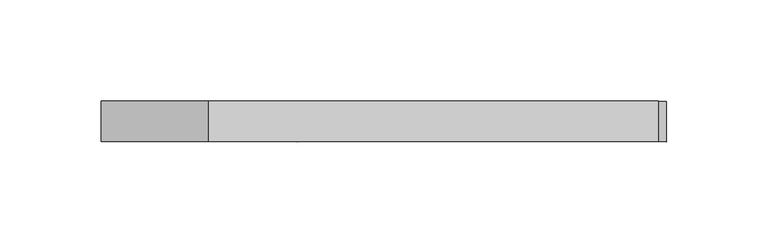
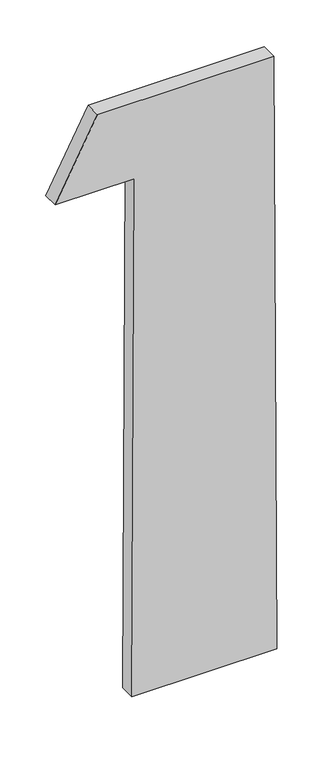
"""IFC4 building model written with IfcOpenShell, lengths in millimetres: plate geometry, 空系统嵌板 : 空."""

from ifc_helpers import new_model, si_unit, frame, origin, place, context, project, spatial, polyline, outline, extrude, source, transform, mapped, element, save


def plate_0ebb438e(model_context):
    return source(origin(), model_context, "Body", "SweptSolid", [
        extrude(outline(polyline([(0.0, -42.9027025), (0.0, 139.561695), (790.0306118, 135.521168), (789.8718781, -86.5279443), (688.5273707, -139.561695), (688.0419657, -39.5628731), (0.0, -42.9027025)])), frame((0.0, -10.0, 0.0), z_axis=(0.0, 1.0, 0.0), x_axis=(0.0, 0.0, 1.0)), (0.0, 0.0, 1.0), 20.0),
    ])


if __name__ == "__main__":
    model = new_model("IFC4")
    model_context = context("Model", 3, world=origin())
    ifc_project = project(units=[si_unit("LENGTHUNIT", "METRE", prefix="MILLI")], contexts=[model_context])
    site = spatial("IfcSite", under=ifc_project)
    building = spatial("IfcBuilding", under=site)
    placement = place(None, origin())
    plate_shape = plate_0ebb438e(model_context)
    element("IfcPlate", 1, ObjectType="空系统嵌板 : 空", at=placement, inside=building, context=model_context, shape_type="MappedRepresentation", body=[
        mapped(plate_shape, transform((0.0, 0.0, 0.0), x_axis=(1.0, 0.0, 0.0), y_axis=(0.0, 1.0, 0.0), z_axis=(0.0, 0.0, 1.0))),
    ])
    save(model, "model.ifc")
